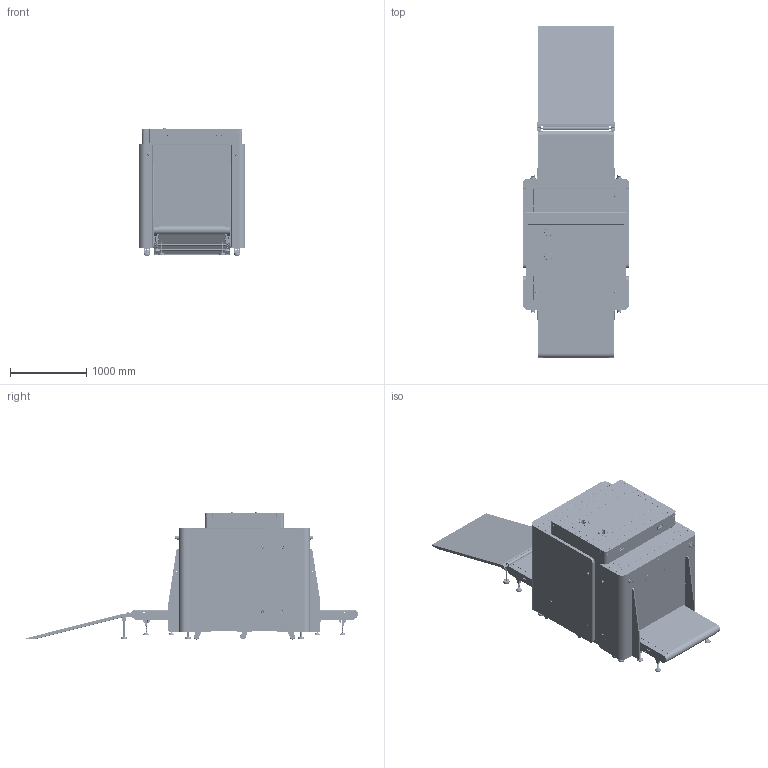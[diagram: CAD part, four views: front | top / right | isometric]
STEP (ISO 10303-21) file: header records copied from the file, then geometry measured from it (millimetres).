
FILE_DESCRIPTION((''),'2;1');
FILE_NAME('000-ZK18-00_ASM_ASM','2021-01-21T',('Administrator'),(''),'PRO/ENGINEER BY PARAMETRIC TECHNOLOGY CORPORATION, 2012090','PRO/ENGINEER BY PARAMETRIC TECHNOLOGY CORPORATION, 2012090','');
FILE_SCHEMA(('AUTOMOTIVE_DESIGN_CC2 { 1 2 10303 214 -1 1 5 2 }'));
Products named in the file (271): 000-ZK18-01-03_8; 000-ZK18-01-02_14; 000-ZK18-01-03MIRR_8; 000-ZK18-01-05_11; 000-ZK18-01-01_8; 000-ZK18-01-06_2; 000-ZK18-01-07_6; 000-ZK18-01-08_20; 000-ZK18-01-09_2; 000-ZK18-01-12_2; 000-ZK18-01-10_1; 000-ZK18-01-10-MIRR_1; 000-ZK18-01-11_13; 000-ZK18-01-01MIRR_3; 000-ZK18-01-13_21; 000-ZK18-01-14_20; 000-ZK18-01-15_2; 000-ZK18-01-16_2; 000-ZK18-01-11MIRR_10; 000-ZK18-01-17_1; 000-ZK18-01-17MIRR_1; 000-ZK18-01-18_1; 000-ZK18-01-21_2; 000-ZK18-01-22_2; 000-ZK18-01-25_1; 000-ZK18-01-00_ASM_18_ASM; CUSON_3; M20-250_2; 001-D2_1; 001-D3_1; 001-D1_ASM_1_ASM; 001-D51_1; 001-D6_2; 001-D4_ASM_2_ASM; 001-D7_1; 001-M5-30_2; 001-DENG_ASM_2_ASM; ZK18-06-01_25; ZK18-06-02_12; ZK18-06-03_22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
Assembly tree (476 placements, depth 7):
  000-ZK18-00_ASM_ASM
    000-ZK18-00_ASM_38_ASM
      000-ZK18-01-00_ASM_18_ASM
        000-ZK18-01-03_8  x2
        000-ZK18-01-02_14
        000-ZK18-01-03MIRR_8  x2
        000-ZK18-01-05_11
        000-ZK18-01-01_8
        000-ZK18-01-06_2  x2
        000-ZK18-01-07_6  x2
        000-ZK18-01-08_20
        000-ZK18-01-09_2  x2
        000-ZK18-01-12_2
        000-ZK18-01-10_1
        000-ZK18-01-10-MIRR_1
        000-ZK18-01-11_13
        000-ZK18-01-01MIRR_3
        000-ZK18-01-13_21
        000-ZK18-01-14_20
        000-ZK18-01-15_2
        000-ZK18-01-16_2  x2
        000-ZK18-01-11MIRR_10
        000-ZK18-01-17_1  x2
        000-ZK18-01-17MIRR_1  x2
        000-ZK18-01-18_1
        000-ZK18-01-21_2  x4
        000-ZK18-01-22_2  x2
        000-ZK18-01-25_1  x4
      CUSON_3  x6
      M20-250_2  x4
      001-DENG_ASM_2_ASM  x4
        001-D1_ASM_1_ASM
          001-D2_1
          001-D3_1
        001-D4_ASM_2_ASM
          001-D51_1
          001-D6_2  x4
        001-D7_1
        001-M5-30_2
      ZK18-06_ASM_20_ASM  x2
        ZK18-06-01_25
        ZK18-06-02_12
        ZK18-06-03_22
        ZK18-06-04_17
        ZK18-06-11_14
        ZK18-06-11-MIRR_17
        LED2_1_ASM
        LED-ASM_ASM_ASM_1_ASM
          LED-ASM_ASM_3_ASM_2_ASM
            LED-YAKELIALL_ASM_3_ASM_3_ASM
              LED-YAKELI_3_3
              LED-YA-1_4_2
              LED-YA-2_4_2
      ZK18-01_ASM_11_ASM
      ZK18-01A_ASM_1_ASM
      ZK18-02_ASM_10_ASM
        ZK18-02-01_44
        ZK18-02-02-QB_36
        ZK18-02-03_49
        ZK18-02-04_3  x2
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Bounding box: 1406 x 4368.28 x 1671.68 mm (x, y, z)
Volume: 124490096.2 mm3; surface area: 104709129 mm2
Topology: 805 solids, 823 shells, 30703 faces, 78656 edges, 49854 vertices
Faces by surface type: plane 18976, cylinder 9988, cone 632, bspline 586, torus 288, extrusion 149, sphere 80, revolution 4
Entity records: 474475 total; most frequent: CARTESIAN_POINT 95495, DIRECTION 71995, ORIENTED_EDGE 69334, EDGE_CURVE 34669, VECTOR 24573, LINE 24460, AXIS2_PLACEMENT_3D 23709, VERTEX_POINT 21782
